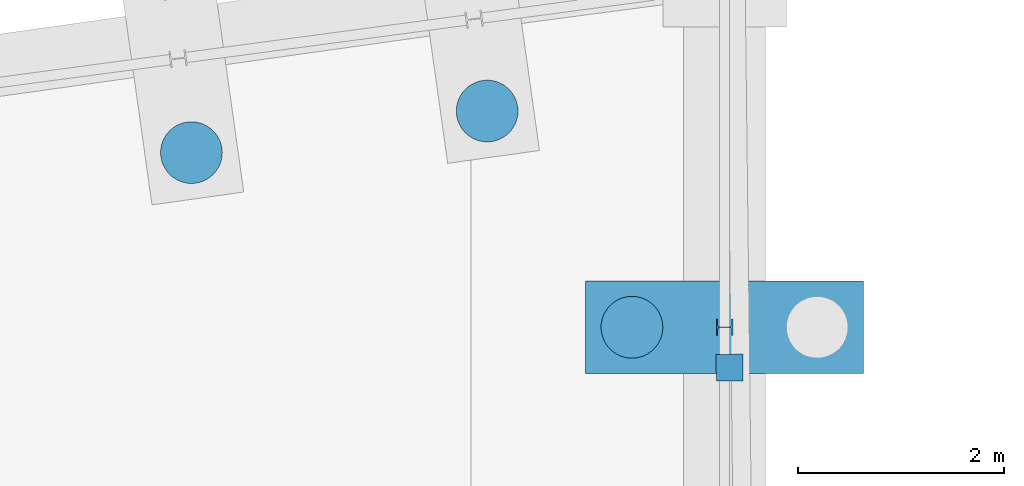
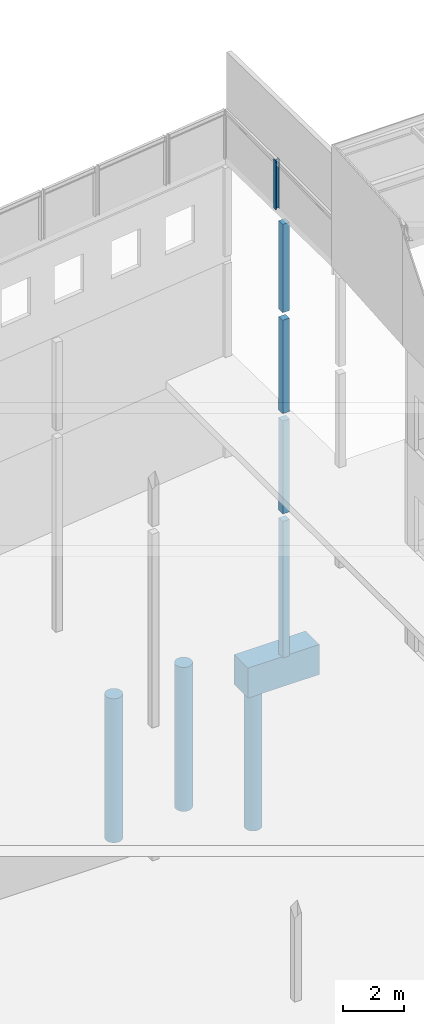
# One storey, part 32 of 82: 9 columns.
"""IFC2X3 building model written with IfcOpenShell, lengths in millimetres."""

from ifc_helpers import new_model, si_unit, frame, frame_2d, origin_with_axes, place, context, subcontext, project, spatial, rectangle, circle, i_section, extrude, material, type_object, element, save


model = new_model("IFC2X3")

# Units and contexts
model_context = context("Model", 3, precision=1e-05, world=origin_with_axes())
body_context = subcontext(model_context, "Body", "Model", "MODEL_VIEW")
ifc_project = project(units=[si_unit("LENGTHUNIT", "METRE", prefix="MILLI"), si_unit("AREAUNIT", "SQUARE_METRE"), si_unit("VOLUMEUNIT", "CUBIC_METRE"), si_unit("MASSUNIT", "GRAM", prefix="KILO"), si_unit("TIMEUNIT", "SECOND"), si_unit("PLANEANGLEUNIT", "RADIAN"), si_unit("SOLIDANGLEUNIT", "STERADIAN"), si_unit("THERMODYNAMICTEMPERATUREUNIT", "DEGREE_CELSIUS"), si_unit("LUMINOUSINTENSITYUNIT", "LUMEN")], contexts=[model_context])

# Site, building, storey
site_placement = place(None, origin_with_axes())
site = spatial("IfcSite", under=ifc_project, at=site_placement, Name="Undefined", CompositionType="ELEMENT")
building_placement = place(site_placement, origin_with_axes())
building = spatial("IfcBuilding", under=site, at=building_placement, Name="Undefined", CompositionType="ELEMENT")
storey_placement = place(building_placement, origin_with_axes())
storey = spatial("IfcBuildingStorey", under=building, at=storey_placement, Name="Undefined", CompositionType="ELEMENT", Elevation=0.0)

# Columns
ifc_material_1 = material(Name="CONCRETE/C25/30")
column_type_1 = type_object("IfcColumnType", Name="260*260", PredefinedType="NOTDEFINED")
column_1_placement = place(storey_placement, frame((29298.6563410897, 27037.5359202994, 13330.0), z_axis=(0.0, 0.0, 1.0), x_axis=(1.0, 0.0, 0.0)))
element("IfcColumn", 1, at=column_1_placement, inside=storey, type_object=column_type_1, material=ifc_material_1, Name="POTEAU", ObjectType="260*260", context=body_context, shape_type="SweptSolid", body=[
    extrude(rectangle(XDim=260.0, YDim=260.0, at=frame_2d((5.17284206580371e-08, 4.49290382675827e-10), x_axis=(1.0, 0.0))), frame((0.0, 0.0, 3529.99999999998), z_axis=(0.0, -6.50000002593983e-08, -0.999999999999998), x_axis=(-0.0117836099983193, 0.999930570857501, 0.0)), (0.0, 0.0, 1.0), 3530.0),
])
column_2_placement = place(storey_placement, frame((29298.6563410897, 27037.5359202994, 9305.0), z_axis=(0.0, 0.0, 1.0), x_axis=(1.0, 0.0, 0.0)))
element("IfcColumn", 2, at=column_2_placement, inside=storey, type_object=column_type_1, material=ifc_material_1, Name="POTEAU", ObjectType="260*260", context=body_context, shape_type="SweptSolid", body=[
    extrude(rectangle(XDim=260.0, YDim=260.0, at=frame_2d((5.17284206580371e-08, 4.49290382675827e-10), x_axis=(1.0, 0.0))), frame((0.0, 0.0, 3725.0), z_axis=(0.0, -6.50000002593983e-08, -0.999999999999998), x_axis=(-0.0117836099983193, 0.999930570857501, 0.0)), (0.0, 0.0, 1.0), 3725.0),
])
column_3_placement = place(storey_placement, frame((29298.6563410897, 27037.5359202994, 5300.0), z_axis=(0.0, 0.0, 1.0), x_axis=(1.0, 0.0, 0.0)))
element("IfcColumn", 3, at=column_3_placement, inside=storey, type_object=column_type_1, material=ifc_material_1, Name="POTEAU", ObjectType="260*260", context=body_context, shape_type="SweptSolid", body=[
    extrude(rectangle(XDim=260.0, YDim=260.0, at=frame_2d((5.17284206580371e-08, 4.49290382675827e-10), x_axis=(1.0, 0.0))), frame((0.0, 0.0, 3705.00000000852), z_axis=(0.0, -6.50000002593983e-08, -0.999999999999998), x_axis=(-0.0117836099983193, 0.999930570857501, 0.0)), (0.0, 0.0, 1.0), 3705.0),
])
column_4_placement = place(storey_placement, frame((29298.6563410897, 27037.5359202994, -449.999023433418), z_axis=(0.0, 0.0, 1.0), x_axis=(1.0, 0.0, 0.0)))
element("IfcColumn", 4, at=column_4_placement, inside=storey, type_object=column_type_1, material=ifc_material_1, Name="POTEAU", ObjectType="260*260", context=body_context, shape_type="SweptSolid", body=[
    extrude(rectangle(XDim=260.0, YDim=260.0, at=frame_2d((5.17284206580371e-08, 4.49290382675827e-10), x_axis=(1.0, 0.0))), frame((0.0, 0.0, 5449.99902343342), z_axis=(0.0, -6.50000002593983e-08, -0.999999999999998), x_axis=(-0.0117836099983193, 0.999930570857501, 0.0)), (0.0, 0.0, 1.0), 5450.0),
])
ifc_material_2 = material(Name="STEEL/S275JR")
column_type_2 = type_object("IfcColumnType", Name="HEB160", PredefinedType="NOTDEFINED")
column_5_placement = place(storey_placement, frame((29249.9999999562, 27430.0000000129, 17160.0), z_axis=(0.0, 0.0, 1.0), x_axis=(1.0, 0.0, 0.0)))
element("IfcColumn", 5, at=column_5_placement, inside=storey, type_object=column_type_2, material=ifc_material_2, Name="POTEAU", ObjectType="HEB160", context=body_context, shape_type="SweptSolid", body=[
    extrude(i_section(OverallWidth=160.0, OverallDepth=160.0, WebThickness=8.0, FlangeThickness=13.0, FilletRadius=15.0, at=frame_2d((5.17284206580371e-08, 4.49290382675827e-10), x_axis=(1.0, 0.0))), frame((0.0, 0.0, 1965.0), z_axis=(0.0, -6.50000002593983e-08, -0.999999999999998), x_axis=(-2.77555756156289e-17, -1.0, 0.0)), (0.0, 0.0, 1.0), 1965.0),
])
ifc_material_3 = material(Name="CONCRETE/C30/37")
column_type_3 = type_object("IfcColumnType", Name="2700*900", PredefinedType="NOTDEFINED")
column_6_placement = place(storey_placement, frame((29249.2099999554, 27429.9999999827, -1649.97), z_axis=(0.0, 0.0, 1.0), x_axis=(1.0, 0.0, 0.0)))
element("IfcColumn", 6, at=column_6_placement, inside=storey, type_object=column_type_3, material=ifc_material_3, Name="SEMELLE", ObjectType="2700*900", context=body_context, shape_type="SweptSolid", body=[
    extrude(rectangle(XDim=900.0, YDim=2700.0, at=frame_2d((5.17284206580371e-08, 4.49290382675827e-10), x_axis=(1.0, 0.0))), frame((0.0, 0.0, 1199.97), z_axis=(0.0, -6.50000002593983e-08, -0.999999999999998), x_axis=(-2.77555756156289e-17, -1.0, 0.0)), (0.0, 0.0, 1.0), 1200.0),
])
column_type_4 = type_object("IfcColumnType", Name="D600", PredefinedType="NOTDEFINED")
column_7_placement = place(storey_placement, frame((28349.9999999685, 27429.9999999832, -7175.0), z_axis=(0.0, 0.0, 1.0), x_axis=(1.0, 0.0, 0.0)))
element("IfcColumn", 7, at=column_7_placement, inside=storey, type_object=column_type_4, material=ifc_material_1, Name="PIEU", ObjectType="D600", context=body_context, shape_type="SweptSolid", body=[
    extrude(circle(Radius=300.0, at=frame_2d((5.17284206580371e-08, 4.49290382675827e-10), x_axis=(1.0, 0.0))), frame((0.0, 0.0, 5750.0), z_axis=(0.0, -6.50000002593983e-08, -0.999999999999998), x_axis=(0.0, 1.0, 0.0)), (0.0, 0.0, 1.0), 5750.0),
])
for number, where, z_axis, x_axis in (
    (8, (26943.093590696, 29531.1302881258, -7175.0), (0.0, 0.0, 1.0), (1.0, 0.0, 0.0)),
    (9, (24069.6435906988, 29127.3002881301, -7175.0), (0.0, 0.0, 1.0), (1.0, 0.0, 0.0)),
):
    element("IfcColumn", number, at=place(storey_placement, frame(where, z_axis=z_axis, x_axis=x_axis)), inside=storey, type_object=column_type_4, material=ifc_material_1, Name="PIEU", ObjectType="D600", context=body_context, shape_type="SweptSolid", body=[
        extrude(circle(Radius=300.0, at=frame_2d((5.17284206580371e-08, 4.49290382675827e-10), x_axis=(1.0, 0.0))), frame((0.0, 0.0, 5750.0), z_axis=(0.0, -6.50000002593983e-08, -0.999999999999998), x_axis=(0.991215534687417, 0.132256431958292, 0.0)), (0.0, 0.0, 1.0), 5750.0),
    ])

save(model, "model.ifc")
